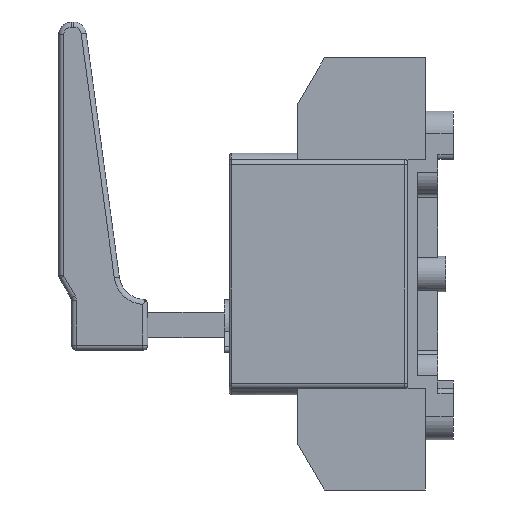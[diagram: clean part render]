
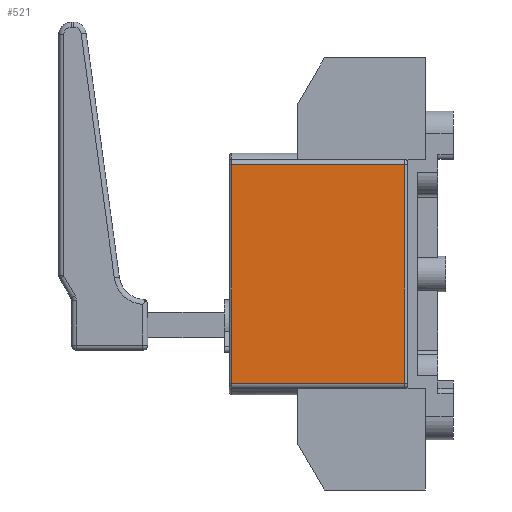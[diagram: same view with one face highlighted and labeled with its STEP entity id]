
A CAD part, left-side view. The second image highlights one B-rep face of the part: STEP entity #521.
In plain terms, the highlighted planar face has unit normal (-1, 0, 0).
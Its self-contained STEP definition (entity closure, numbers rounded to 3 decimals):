
#78=FACE_OUTER_BOUND('',#1534,.T.);
#521=ADVANCED_FACE('',(#78),#857,.F.);
#857=PLANE('',#6473);
#1534=EDGE_LOOP('',(#2148,#2149,#2150,#2151));
#2148=ORIENTED_EDGE('',*,*,#4526,.F.);
#2149=ORIENTED_EDGE('',*,*,#4527,.T.);
#2150=ORIENTED_EDGE('',*,*,#4523,.T.);
#2151=ORIENTED_EDGE('',*,*,#4528,.T.);
#3907=VERTEX_POINT('',#9449);
#3908=VERTEX_POINT('',#9450);
#3909=VERTEX_POINT('',#9455);
#3910=VERTEX_POINT('',#9456);
#4523=EDGE_CURVE('',#3907,#3908,#5363,.T.);
#4526=EDGE_CURVE('',#3909,#3910,#5364,.T.);
#4527=EDGE_CURVE('',#3909,#3907,#5365,.T.);
#4528=EDGE_CURVE('',#3908,#3910,#5366,.T.);
#5363=LINE('',#9448,#5923);
#5364=LINE('',#9454,#5924);
#5365=LINE('',#9457,#5925);
#5366=LINE('',#9458,#5926);
#5923=VECTOR('',#7339,1.);
#5924=VECTOR('',#7346,1.);
#5925=VECTOR('',#7347,1.);
#5926=VECTOR('',#7348,1.);
#6473=AXIS2_PLACEMENT_3D('',#9459,#7349,#7350);
#7339=DIRECTION('',(0.,-1.,0.));
#7346=DIRECTION('',(0.,-1.,0.));
#7347=DIRECTION('',(0.,0.,-1.));
#7348=DIRECTION('',(0.,0.,1.));
#7349=DIRECTION('',(1.,0.,0.));
#7350=DIRECTION('',(0.,0.,-1.));
#9448=CARTESIAN_POINT('',(-41.,35.,-43.));
#9449=CARTESIAN_POINT('',(-41.,69.,-43.));
#9450=CARTESIAN_POINT('',(-41.,1.,-43.));
#9454=CARTESIAN_POINT('',(-41.,35.,43.));
#9455=CARTESIAN_POINT('',(-41.,69.,43.));
#9456=CARTESIAN_POINT('',(-41.,1.,43.));
#9457=CARTESIAN_POINT('',(-41.,69.,-43.));
#9458=CARTESIAN_POINT('',(-41.,1.,-43.));
#9459=CARTESIAN_POINT('',(-41.,35.,-43.));
